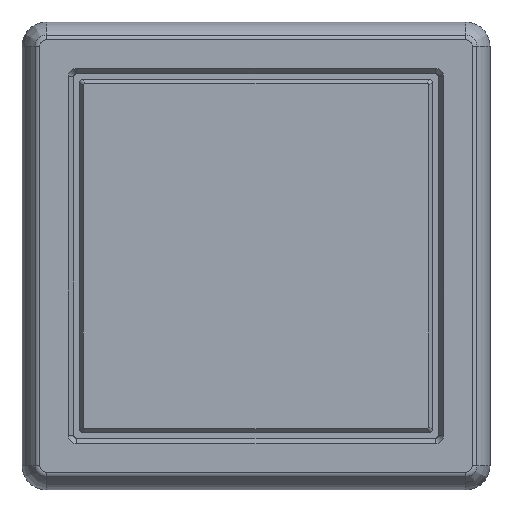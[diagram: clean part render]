
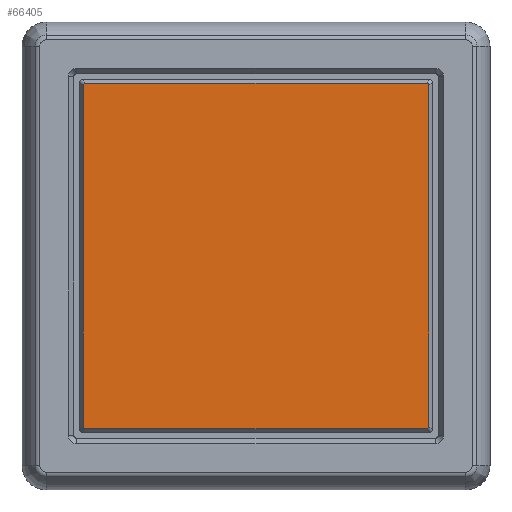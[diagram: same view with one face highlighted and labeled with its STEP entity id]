
A CAD part, top view. The second image highlights one B-rep face of the part: STEP entity #66405.
In plain terms, the highlighted planar face has unit normal (0, 0, 1).
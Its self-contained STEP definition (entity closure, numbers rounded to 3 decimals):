
#65306=CARTESIAN_POINT('',(-27.99,28.423,3.));
#65307=CARTESIAN_POINT('',(-28.134,28.423,3.));
#65308=CARTESIAN_POINT('',(-28.325,28.325,3.));
#65309=CARTESIAN_POINT('',(-28.423,28.134,3.));
#65310=CARTESIAN_POINT('',(-28.423,27.99,3.));
#65326=CARTESIAN_POINT('',(28.423,27.99,3.));
#65327=CARTESIAN_POINT('',(28.423,28.134,3.));
#65328=CARTESIAN_POINT('',(28.325,28.325,3.));
#65329=CARTESIAN_POINT('',(28.134,28.423,3.));
#65330=CARTESIAN_POINT('',(27.99,28.423,3.));
#65346=CARTESIAN_POINT('',(27.99,-28.423,3.));
#65347=CARTESIAN_POINT('',(28.134,-28.423,3.));
#65348=CARTESIAN_POINT('',(28.325,-28.325,3.));
#65349=CARTESIAN_POINT('',(28.423,-28.134,3.));
#65350=CARTESIAN_POINT('',(28.423,-27.99,3.));
#65366=CARTESIAN_POINT('',(-28.423,-27.99,3.));
#65367=CARTESIAN_POINT('',(-28.423,-28.134,3.));
#65368=CARTESIAN_POINT('',(-28.325,-28.325,3.));
#65369=CARTESIAN_POINT('',(-28.134,-28.423,3.));
#65370=CARTESIAN_POINT('',(-27.99,-28.423,3.));
#65382=DIRECTION('',(-1.,0.,0.));
#65383=VECTOR('',#65382,55.979);
#65384=CARTESIAN_POINT('',(27.99,28.423,3.));
#65385=LINE('',#65384,#65383);
#65386=DIRECTION('',(0.,1.,0.));
#65387=VECTOR('',#65386,55.979);
#65388=CARTESIAN_POINT('',(28.423,-27.99,3.));
#65389=LINE('',#65388,#65387);
#65390=DIRECTION('',(1.,0.,0.));
#65391=VECTOR('',#65390,55.979);
#65392=CARTESIAN_POINT('',(-27.99,-28.423,3.));
#65393=LINE('',#65392,#65391);
#65394=DIRECTION('',(0.,-1.,0.));
#65395=VECTOR('',#65394,55.979);
#65396=CARTESIAN_POINT('',(-28.423,27.99,3.));
#65397=LINE('',#65396,#65395);
#65398=CARTESIAN_POINT('',(-27.99,28.423,3.));
#65400=VERTEX_POINT('',#65398);
#65402=VERTEX_POINT('',#65310);
#65405=CARTESIAN_POINT('',(-28.423,-27.99,3.));
#65407=VERTEX_POINT('',#65405);
#65409=VERTEX_POINT('',#65370);
#65412=CARTESIAN_POINT('',(27.99,-28.423,3.));
#65414=VERTEX_POINT('',#65412);
#65416=VERTEX_POINT('',#65350);
#65419=CARTESIAN_POINT('',(28.423,27.99,3.));
#65421=VERTEX_POINT('',#65419);
#65423=VERTEX_POINT('',#65330);
#66390=CARTESIAN_POINT('',(0.,0.,3.));
#66391=DIRECTION('',(0.,0.,1.));
#66392=DIRECTION('',(1.,0.,0.));
#66393=AXIS2_PLACEMENT_3D('',#66390,#66391,#66392);
#66394=PLANE('',#66393);
#66395=ORIENTED_EDGE('',*,*,#66300,.F.);
#66396=ORIENTED_EDGE('',*,*,#66316,.F.);
#66397=ORIENTED_EDGE('',*,*,#66328,.F.);
#66398=ORIENTED_EDGE('',*,*,#66342,.F.);
#66399=ORIENTED_EDGE('',*,*,#66356,.F.);
#66400=ORIENTED_EDGE('',*,*,#66370,.F.);
#66401=ORIENTED_EDGE('',*,*,#66383,.F.);
#66402=ORIENTED_EDGE('',*,*,#66285,.F.);
#66403=EDGE_LOOP('',(#66395,#66396,#66397,#66398,#66399,#66400,#66401,#66402));
#66404=FACE_OUTER_BOUND('',#66403,.F.);
#66405=ADVANCED_FACE('',(#66404),#66394,.T.);
#65311=B_SPLINE_CURVE_WITH_KNOTS('',3,(#65306,#65307,#65308,#65309,#65310),
.UNSPECIFIED.,.F.,.F.,(4,1,4),(0.,0.5,1.),.UNSPECIFIED.);
#65331=B_SPLINE_CURVE_WITH_KNOTS('',3,(#65326,#65327,#65328,#65329,#65330),
.UNSPECIFIED.,.F.,.F.,(4,1,4),(0.,0.5,1.),.UNSPECIFIED.);
#65351=B_SPLINE_CURVE_WITH_KNOTS('',3,(#65346,#65347,#65348,#65349,#65350),
.UNSPECIFIED.,.F.,.F.,(4,1,4),(0.,0.5,1.),.UNSPECIFIED.);
#65371=B_SPLINE_CURVE_WITH_KNOTS('',3,(#65366,#65367,#65368,#65369,#65370),
.UNSPECIFIED.,.F.,.F.,(4,1,4),(0.,0.5,1.),.UNSPECIFIED.);
#66285=EDGE_CURVE('',#65402,#65407,#65397,.T.);
#66300=EDGE_CURVE('',#65400,#65402,#65311,.T.);
#66316=EDGE_CURVE('',#65423,#65400,#65385,.T.);
#66328=EDGE_CURVE('',#65421,#65423,#65331,.T.);
#66342=EDGE_CURVE('',#65416,#65421,#65389,.T.);
#66356=EDGE_CURVE('',#65414,#65416,#65351,.T.);
#66370=EDGE_CURVE('',#65409,#65414,#65393,.T.);
#66383=EDGE_CURVE('',#65407,#65409,#65371,.T.);
